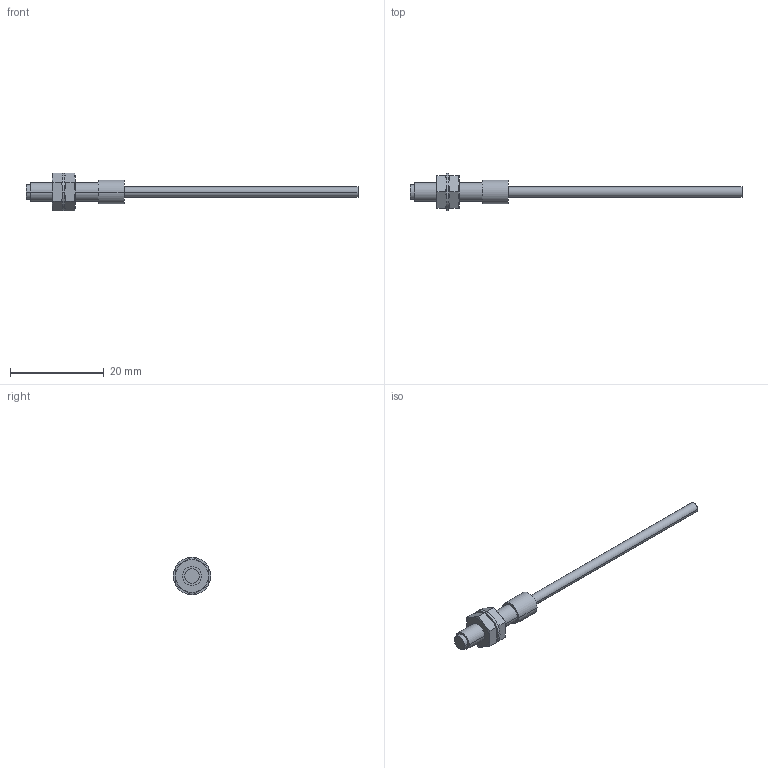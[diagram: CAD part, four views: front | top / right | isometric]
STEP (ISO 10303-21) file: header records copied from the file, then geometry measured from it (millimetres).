
FILE_DESCRIPTION((''),'2;1');
FILE_NAME('0000442244_ASM','2021-09-27T09:10:44',('11000804'),(''),'CREO PARAMETRIC BY PTC INC, 2019030','CREO PARAMETRIC BY PTC INC, 2019030','');
FILE_SCHEMA(('AUTOMOTIVE_DESIGN { 1 0 10303 214 1 1 1 1 }'));
Products named in the file (5): 0000442188; 0000442186; 0000040814; 0000442199; 0000442244_ASM
Assembly tree (5 placements, depth 2):
  0000442244_ASM
    0000442188
    0000442186
    0000040814  x2
    0000442199
Bounding box: 71 x 8 x 8.08 mm (x, y, z)
Volume: 648.3 mm3; surface area: 1237.3 mm2
Topology: 5 solids, 8 shells, 521 faces, 1518 edges, 1012 vertices
Faces by surface type: cylinder 448, plane 41, cone 32
Entity records: 410368 total; most frequent: CARTESIAN_POINT 326554, POLYLINE 63216, ORIENTED_EDGE 2888, DIRECTION 1810, PRESENTATION_STYLE_ASSIGNMENT 1553, CURVE_STYLE 1540, STYLED_ITEM 1475, EDGE_CURVE 1448
